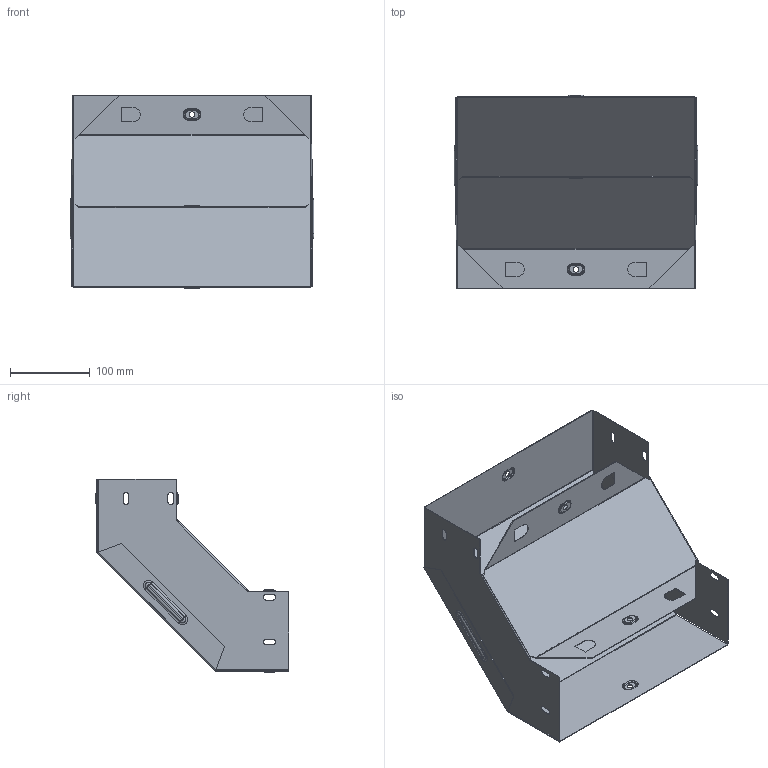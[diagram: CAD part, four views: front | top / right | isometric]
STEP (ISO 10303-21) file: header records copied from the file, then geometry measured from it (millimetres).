
FILE_DESCRIPTION (( 'STEP AP214' ), '1' );
FILE_NAME ('vo90100300_捘.STEP', '2019-06-10T09:07:00', ( '砐錪賧瘔蠈錪 Windows' ), ( '' ), 'SwSTEP 2.0', 'SolidWorks 2018', '' );
FILE_SCHEMA (( 'AUTOMOTIVE_DESIGN' ));
Length unit declared in the file: millimetre
Products named in the file (1): vo90100300_捘
Bounding box: 305.6 x 242.31 x 242.31 mm (x, y, z)
Volume: 199278.8 mm3; surface area: 501589.1 mm2
Topology: 2 solids, 2 shells, 296 faces, 708 edges, 432 vertices
Faces by surface type: cylinder 112, plane 112, torus 64, bspline 8
Entity records: 8803 total; most frequent: CARTESIAN_POINT 1685, DIRECTION 1558, ORIENTED_EDGE 1416, EDGE_CURVE 708, AXIS2_PLACEMENT_3D 593, VERTEX_POINT 432, LINE 372, VECTOR 372
